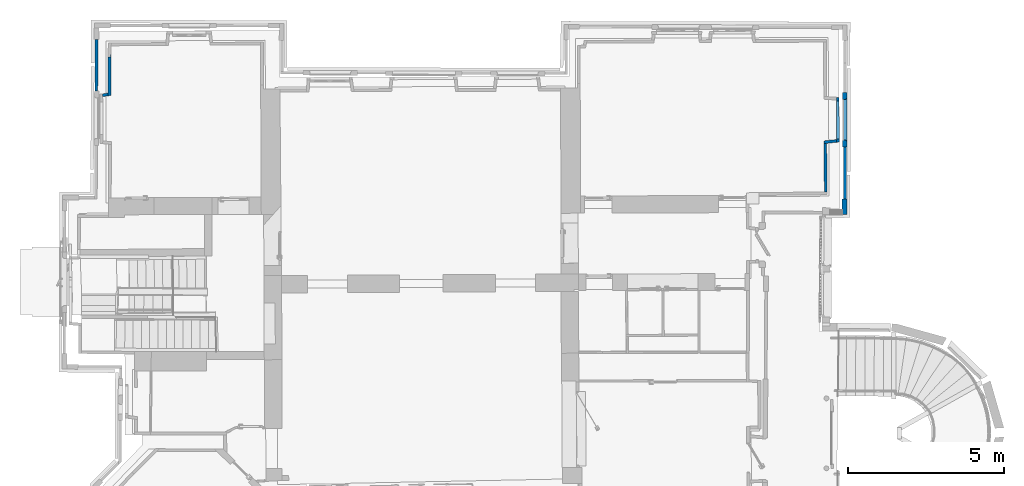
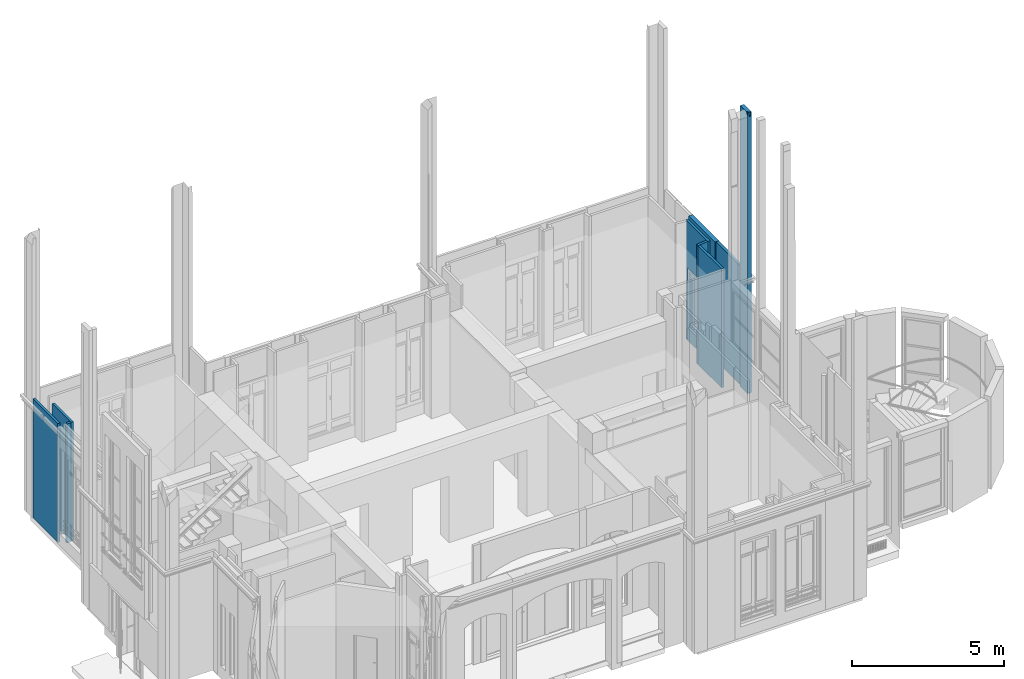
# One storey, part 19 of 97: 9 walls, 3 openings.
"""IFC2X3 building model written with IfcOpenShell, lengths in centimetres."""

from ifc_helpers import new_model, entity, si_unit, converted_unit, direction, frame, origin, origin_with_axes, place, context, subcontext, project, spatial, polyline, outline, extrude, clip, bounded_halfspace, faceted_brep, shape, material, layer, layer_set, layer_usage, type_object, element, save


model = new_model("IFC2X3")

# Units and contexts
model_context = context("Model", 3, precision=0.0001, world=origin(), true_north=direction((0.225632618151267, 0.974212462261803, 0.0)))
body_context = subcontext(model_context, "Body", "Model", "MODEL_VIEW")
footprint_context = subcontext(model_context, "FootPrint", "Model", "MODEL_VIEW")
profile_context = subcontext(model_context, "Profile", "Model", "MODEL_VIEW")
ifc_project = project(units=[si_unit("LENGTHUNIT", "METRE", prefix="CENTI"), si_unit("AREAUNIT", "SQUARE_METRE", prefix="CENTI"), si_unit("VOLUMEUNIT", "CUBIC_METRE", prefix="CENTI"), converted_unit("PLANEANGLEUNIT", "DEGREE", entity("IfcRatioMeasure", 0.0174532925), si_unit("PLANEANGLEUNIT", "RADIAN"), dimensions=[0, 0, 0, 0, 0, 0, 0])], contexts=[model_context])

# Site, building, storey
site_placement = place(None, origin_with_axes())
site = spatial("IfcSite", under=ifc_project, at=site_placement, Name="Default Site", CompositionType="ELEMENT")
building_placement = place(site_placement, origin_with_axes())
building = spatial("IfcBuilding", under=site, at=building_placement, Name="Default Building", CompositionType="ELEMENT")
storey_placement = place(building_placement, origin_with_axes())
storey = spatial("IfcBuildingStorey", under=building, at=storey_placement, Name="Rez-de-chaussée", CompositionType="ELEMENT", Elevation=0.0)

# Walls
ifc_material = material(Name="<aucun>")
ifc_layer_1 = layer(ifc_material, 9.0)
ifc_layer_set_1 = layer_set([ifc_layer_1], Name="default")
ifc_layer_usage_1 = layer_usage(ifc_layer_set_1, "AXIS2", "POSITIVE", -4.5)
wall_type_1 = type_object("IfcWallType", Name="default 90", PredefinedType="NOTDEFINED", material=ifc_layer_set_1)
wall_1_placement = place(storey_placement, frame((1143.79783582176, 201.277321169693, 0.0128503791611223), z_axis=(0.0, 0.0, 1.0), x_axis=(0.00506195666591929, 0.999987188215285, 0.0)))
element("IfcWallStandardCase", 1, at=wall_1_placement, inside=storey, type_object=wall_type_1, material=ifc_layer_usage_1, Name="Enveloppe 368208", context=body_context, shape_type="SweptSolid", body=[
    extrude(outline(polyline([(0.153952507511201, 4.49999999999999), (0.153952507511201, -4.50000000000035), (166.728119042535, -4.50000000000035), (166.712683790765, 4.49999999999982), (0.153952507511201, 4.49999999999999)])), frame((0.0, 0.0, -8.13151629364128e-18), z_axis=(0.0, 0.0, 1.0), x_axis=(1.0, 0.0, 0.0)), (0.0, 0.0, 1.0), 477.795358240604),
])
ifc_layer_usage_2 = layer_usage(ifc_layer_set_1, "AXIS2", "POSITIVE", -4.5)
wall_2_placement = place(storey_placement, frame((-1252.33545068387, 547.113610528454, 0.0128503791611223), z_axis=(0.0, 0.0, 1.0), x_axis=(0.00315065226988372, 0.99999503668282, 0.0)))
element("IfcWallStandardCase", 2, at=wall_2_placement, inside=storey, type_object=wall_type_1, material=ifc_layer_usage_2, Name="Enveloppe 371685", context=body_context, shape_type="Clipping", body=[
    clip(clip(extrude(outline(polyline([(2.47822207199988e-06, 4.49921342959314), (2.27587735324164e-06, -4.50072234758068), (165.208116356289, -4.49968491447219), (165.243770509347, 4.50000000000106), (2.47822207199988e-06, 4.49921342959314)])), frame((0.0, 0.0, -8.13151629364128e-18), z_axis=(0.0, 0.0, 1.0), x_axis=(1.0, 0.0, 0.0)), (0.0, 0.0, 1.0), 477.795358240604), bounded_halfspace(frame((0.229270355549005, -4.49999999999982, 465.782507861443), z_axis=(0.0, 0.0, 1.0), x_axis=(-1.0, -9.69993616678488e-13, 0.0)), True, frame((0.229270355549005, -4.49999999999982, 465.782507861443), z_axis=(0.0, 0.0, 1.0), x_axis=(1.0, 0.0, 0.0)), polyline([(-0.229270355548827, -1.77635683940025e-13), (-0.229270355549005, 1.01476731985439), (0.00229512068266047, 1.01334410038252), (8.88178419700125e-14, 0.0), (-0.229270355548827, -1.77635683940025e-13)]))), bounded_halfspace(frame((0.249654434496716, 4.49999999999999, 465.782507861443), z_axis=(0.0, 0.0, 1.0), x_axis=(-0.00226489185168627, -0.999997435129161, 0.0)), True, frame((0.249654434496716, 4.49999999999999, 465.782507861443), z_axis=(0.0, 0.0, 1.0), x_axis=(1.0, 0.0, 0.0)), polyline([(-0.249654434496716, -7.98523268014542), (-0.249654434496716, -3.5527136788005e-13), (8.88178419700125e-14, 0.0), (-0.0180889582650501, -7.98665589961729), (-0.249654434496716, -7.98523268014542)]))),
])
ifc_layer_usage_3 = layer_usage(ifc_layer_set_1, "AXIS2", "POSITIVE", -4.5)
wall_3_placement = place(storey_placement, frame((1082.6711145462, 224.358256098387, 0.0128503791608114), z_axis=(0.0, 0.0, 1.0), x_axis=(-0.0110576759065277, 0.999938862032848, 0.0)))
element("IfcWallStandardCase", 3, at=wall_3_placement, inside=storey, type_object=wall_type_1, material=ifc_layer_usage_3, Name="Enveloppe 673099", context=body_context, shape_type="SweptSolid", body=[
    extrude(outline(polyline([(154.33601609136, 4.50000000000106), (-0.00255474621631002, 4.50000000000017), (-2.22044604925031e-13, -4.49999999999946), (155.186640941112, -4.49999999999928), (154.33601609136, 4.50000000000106)])), frame((0.0, 0.0, 2.71050543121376e-18), z_axis=(0.0, 0.0, 1.0), x_axis=(1.0, 0.0, 0.0)), (0.0, 0.0, 1.0), 477.795358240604),
])
ifc_layer_usage_4 = layer_usage(ifc_layer_set_1, "AXIS2", "POSITIVE", -4.5)
wall_4_placement = place(storey_placement, frame((1076.74714079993, 383.18997632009, 0.0128503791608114), z_axis=(0.0, 0.0, 1.0), x_axis=(0.994461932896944, 0.105097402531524, 0.0)))
element("IfcWallStandardCase", 4, at=wall_4_placement, inside=storey, type_object=wall_type_1, material=ifc_layer_usage_4, Name="Enveloppe 672947", context=body_context, shape_type="SweptSolid", body=[
    extrude(outline(polyline([(0.0911316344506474, 4.49999999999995), (-0.759493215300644, -4.49999999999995), (40.2711774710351, -4.49999999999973), (41.1729534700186, 4.50000000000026), (0.0911316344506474, 4.49999999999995)])), origin_with_axes(), (0.0, 0.0, 1.0), 477.795358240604),
])
ifc_layer_usage_5 = layer_usage(ifc_layer_set_1, "AXIS2", "POSITIVE", -4.5)
wall_5_placement = place(storey_placement, frame((-1210.14601625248, 533.107733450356, 0.0128503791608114), z_axis=(0.0, 0.0, 1.0), x_axis=(-0.00291147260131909, 0.999995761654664, 0.0)))
element("IfcWallStandardCase", 5, at=wall_5_placement, inside=storey, type_object=wall_type_1, material=ifc_layer_usage_5, Name="Enveloppe 667974", context=body_context, shape_type="Clipping", body=[
    clip(extrude(outline(polyline([(122.711111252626, 4.50000000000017), (-1.38306657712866, 4.49999999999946), (-0.00021398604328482, -4.49999999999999), (133.631462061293, -4.49999999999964), (122.710600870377, -3.92676964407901), (122.711111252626, 4.50000000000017)])), origin_with_axes(), (0.0, 0.0, 1.0), 477.795358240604), bounded_halfspace(frame((122.711111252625, -3.92677113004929, 399.097180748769), z_axis=(0.0, 0.0, -1.0), x_axis=(3.89958031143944e-13, -1.0, 0.0)), True, frame((122.711111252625, -3.92677113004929, 399.097180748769), z_axis=(0.0, 0.0, 1.0), x_axis=(1.0, 0.0, 0.0)), polyline([(1.77635683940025e-13, -0.573228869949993), (10.9203508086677, -0.573228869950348), (0.0, 1.77635683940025e-13), (1.77635683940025e-13, -0.573228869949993)]))),
])
ifc_layer_usage_6 = layer_usage(ifc_layer_set_1, "AXIS2", "POSITIVE", -4.5)
wall_6_placement = place(storey_placement, frame((-1232.33137893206, 533.495712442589, 0.0128503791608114), z_axis=(0.0, 0.0, 1.0), x_axis=(0.98795442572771, 0.15474512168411, 0.0)))
element("IfcWallStandardCase", 6, at=wall_6_placement, inside=storey, type_object=wall_type_1, material=ifc_layer_usage_6, Name="Enveloppe 668041", context=body_context, shape_type="SweptSolid", body=[
    extrude(outline(polyline([(0.0, 4.50000000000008), (0.0, -3.47108656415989), (-0.158285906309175, -4.49999999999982), (17.2002422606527, -4.49999999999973), (18.5830948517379, 4.50000000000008), (0.0, 4.50000000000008)])), origin_with_axes(), (0.0, 0.0, 1.0), 477.795358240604),
])

# Wall, openings
ifc_layer_usage_7 = layer_usage(ifc_layer_set_1, "AXIS2", "POSITIVE", -4.5)
wall_7_placement = place(storey_placement, frame((1121.74117112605, 387.945066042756, 0.0128503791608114), z_axis=(0.0, 0.0, 1.0), x_axis=(-0.00542779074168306, 0.999985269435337, 0.0)))
wall_7 = element("IfcWallStandardCase", 7, at=wall_7_placement, inside=storey, type_object=wall_type_1, material=ifc_layer_usage_7, Name="Enveloppe 672747", context=body_context, shape_type="SweptSolid", body=[
    extrude(outline(polyline([(130.307049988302, 4.50000000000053), (-4.97342047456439, 4.49999999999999), (-4.0716444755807, -4.49999999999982), (138.656456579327, -4.49999999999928), (139.281773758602, 3.82595753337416), (130.307049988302, 4.50000000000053)])), frame((0.0, 0.0, -2.71050543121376e-18), z_axis=(0.0, 0.0, 1.0), x_axis=(1.0, 0.0, 0.0)), (0.0, 0.0, 1.0), 477.795358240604),
])
opening_1_placement = place(wall_7_placement, frame((4.07164447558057, 2.27373675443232e-13, -1.77635683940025e-13), z_axis=(0.0, 0.0, 1.0), x_axis=(1.0, 4.17634676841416e-15, 0.0)))
cartesian_point_1 = entity("IfcCartesianPoint", [0.0, -1.77635683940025e-13, 51.0])
cartesian_point_2 = entity("IfcCartesianPoint", [126.235405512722, 4.49999999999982])
element("IfcOpeningElement", 8, at=opening_1_placement, cuts=wall_7, Name="Baie 23835", ObjectType="Recess", shapes=[
    shape(body_context, "Body", "Brep", [faceted_brep([(-1.04955064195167e-05, 24.4999648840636, 50.9999994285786), (126.235426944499, 24.4999648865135, 50.9999994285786), (126.235426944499, 24.4999648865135, -4.62430102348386e-10), (-1.04955064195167e-05, 24.4999648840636, -4.62430102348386e-10), (-1.04950988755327e-05, 3.50003317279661, -4.62430102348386e-10), (-1.04950988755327e-05, 3.50003317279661, 50.9999994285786), (126.235426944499, 24.5000003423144, -4.62430102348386e-10), (126.235407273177, 3.49997339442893, -4.62430102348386e-10), (-5.80768735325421e-06, 3.50003317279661, -4.62430102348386e-10), (126.235426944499, 24.5000003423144, 50.9999994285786), (126.235426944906, 3.49997339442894, 50.9999994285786), (126.235426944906, 3.49997339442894, -4.62430102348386e-10), (-5.80768735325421e-06, 3.50003317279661, 50.9999994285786), (126.235407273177, 3.49997339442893, 50.9999994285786), (126.235407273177, 3.50003317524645, -4.62430102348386e-10), (126.235407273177, 3.50003317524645, 50.9999994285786)], [[[0, 1, 2, 3]], [[3, 4, 5, 0]], [[6, 7, 8, 3]], [[9, 10, 11, 6]], [[0, 12, 13, 9]], [[12, 8, 14, 15]]])]),
    shape(profile_context, "Profile", "GeometricCurveSet", [entity("IfcGeometricCurveSet", [entity("IfcPolyline", [cartesian_point_1, entity("IfcCartesianPoint", [0.0, -1.77635683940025e-13, -2.71050543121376e-18]), entity("IfcCartesianPoint", [126.235405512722, -1.77635683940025e-13, -2.71050543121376e-18]), entity("IfcCartesianPoint", [126.235405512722, -1.77635683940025e-13, 51.0]), cartesian_point_1])])]),
    shape(footprint_context, "FootPrint", "GeometricCurveSet", [entity("IfcGeometricCurveSet", [entity("IfcPolyline", [cartesian_point_2, entity("IfcCartesianPoint", [0.0, 4.49999999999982]), entity("IfcCartesianPoint", [0.0, -4.50000000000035]), entity("IfcCartesianPoint", [126.235405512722, -4.50000000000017]), cartesian_point_2])])]),
])
opening_2_placement = place(wall_7_placement, frame((6.18815742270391, -2.27373675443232e-13, 51.0871496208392), z_axis=(0.0, 0.0, 1.0), x_axis=(1.0, 4.17634676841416e-15, 0.0)))
cartesian_point_3 = entity("IfcCartesianPoint", [0.0, 1.77635683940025e-13, 240.0])
cartesian_point_4 = entity("IfcCartesianPoint", [121.522297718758, 4.50000000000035])
element("IfcOpeningElement", 9, at=opening_2_placement, cuts=wall_7, Name="4294966459_11", ObjectType="Opening", shapes=[
    shape(body_context, "Body", "SweptSolid", [extrude(outline(polyline([(4.44089209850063e-14, 240.0), (4.44089209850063e-14, 0.0), (121.522297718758, 0.0), (121.522297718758, 240.0), (4.44089209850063e-14, 240.0)])), frame((0.0, 14.5, 0.0), z_axis=(0.0, -1.0, 0.0), x_axis=(1.0, 0.0, 0.0)), (0.0, 0.0, 1.0), 29.0)]),
    shape(profile_context, "Profile", "GeometricCurveSet", [entity("IfcGeometricCurveSet", [entity("IfcPolyline", [cartesian_point_3, entity("IfcCartesianPoint", [0.0, 1.77635683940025e-13, 0.0]), entity("IfcCartesianPoint", [121.522297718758, 1.77635683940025e-13, 0.0]), entity("IfcCartesianPoint", [121.522297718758, 1.77635683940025e-13, 240.0]), cartesian_point_3])])]),
    shape(footprint_context, "FootPrint", "GeometricCurveSet", [entity("IfcGeometricCurveSet", [entity("IfcPolyline", [cartesian_point_4, entity("IfcCartesianPoint", [4.44089209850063e-14, 4.50000000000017]), entity("IfcCartesianPoint", [0.0, -4.49999999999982]), entity("IfcCartesianPoint", [121.522297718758, -4.49999999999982]), cartesian_point_4])])]),
])

# Wall
ifc_layer_2 = layer(ifc_material, 15.0)
ifc_layer_set_2 = layer_set([ifc_layer_2], Name="default")
ifc_layer_usage_8 = layer_usage(ifc_layer_set_2, "AXIS2", "POSITIVE", -7.5)
wall_type_2 = type_object("IfcWallType", Name="default 150", PredefinedType="NOTDEFINED", material=ifc_layer_set_2)
wall_8_placement = place(storey_placement, frame((1142.34356152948, 151.628122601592, 0.0128503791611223), z_axis=(0.0, 0.0, 1.0), x_axis=(0.00334694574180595, 0.999994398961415, 0.0)))
solid = clip(clip(clip(clip(clip(clip(clip(clip(extrude(outline(polyline([(-0.323613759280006, 7.50000000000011), (-0.00295725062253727, -7.50000000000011), (49.7154579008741, -7.49999999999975), (49.7154579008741, -5.78820535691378), (49.8000210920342, -5.78792232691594), (49.8154563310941, 4.10487673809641), (49.7154579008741, 4.10543705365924), (49.7154579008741, 7.50000000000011), (-0.323613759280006, 7.50000000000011)])), origin_with_axes(), (0.0, 0.0, 1.0), 1127.62220273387), bounded_halfspace(frame((49.8154563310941, 4.10487673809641, 853.897523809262), z_axis=(0.0, 0.0, 1.0), x_axis=(1.59275636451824e-06, -0.999999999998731, 0.0)), True, frame((49.8154563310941, 4.10487673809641, 853.897523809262), z_axis=(0.0, 0.0, 1.0), x_axis=(1.0, 0.0, 0.0)), polyline([(-0.0999984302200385, -0.893068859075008), (-0.0999984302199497, 0.000560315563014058), (0.0, 0.0), (1.42271425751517e-06, -0.893240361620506), (-0.0999984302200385, -0.893068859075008)]))), bounded_halfspace(frame((49.7154579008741, -4.89470422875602, 1107.6399055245), z_axis=(-0.00105270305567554, 0.848860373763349, -0.528616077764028), x_axis=(0.000906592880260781, 0.528616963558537, 0.848859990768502)), True, frame((49.7154579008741, -4.89470422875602, 1107.6399055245), z_axis=(0.0, 0.0, 1.0), x_axis=(1.0, 0.0, 0.0)), polyline([(0.0, -0.893501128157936), (0.0845646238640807, -0.893646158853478), (0.0860964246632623, -0.000482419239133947), (0.0, 1.77635683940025e-13), (0.0, -0.893501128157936)]))), bounded_halfspace(frame((2.24677387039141, 7.23421766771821, 1114.9758371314), z_axis=(0.825718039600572, 0.0373590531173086, -0.562844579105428), x_axis=(0.0213591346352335, -0.999159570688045, -0.0349848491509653)), True, frame((2.24677387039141, 7.23421766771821, 1114.9758371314), z_axis=(0.0, 0.0, 1.0), x_axis=(1.0, 0.0, 0.0)), polyline([(-2.56353448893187, -0.0548009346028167), (-2.45886908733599, -4.95094675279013), (0.000972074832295, -0.116540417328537), (2.22044604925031e-14, 0.0), (-2.56353448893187, -0.0548009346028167)]))), bounded_halfspace(frame((14.6798132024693, 7.50000000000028, 1127.61329611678), z_axis=(-0.00105270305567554, 0.848860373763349, -0.528616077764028), x_axis=(-0.999998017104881, 2.80071105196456e-15, 0.00199142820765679)), True, frame((14.6798132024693, 7.50000000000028, 1127.61329611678), z_axis=(0.0, 0.0, 1.0), x_axis=(1.0, 0.0, 0.0)), polyline([(-12.3697776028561, -7.85012468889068), (-12.3250955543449, -13.2069803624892), (35.0356446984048, -13.2882053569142), (35.0356446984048, -1.77635683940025e-13), (0.0, 0.0), (-4.56333062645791, -0.0975507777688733), (-12.3697776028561, -7.85012468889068)]))), bounded_halfspace(frame((2.44232503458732, 7.50000000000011, 1115.28036080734), z_axis=(0.825718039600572, 0.0373590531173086, -0.562844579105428), x_axis=(0.367247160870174, 0.72176289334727, 0.586675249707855)), True, frame((2.44232503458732, 7.50000000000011, 1115.28036080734), z_axis=(0.0, 0.0, 1.0), x_axis=(1.0, 0.0, 0.0)), polyline([(-0.195551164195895, -0.265782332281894), (-0.134572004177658, -0.264478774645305), (0.0, 0.0), (-0.197768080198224, 0.0), (-0.195551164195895, -0.265782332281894)]))), bounded_halfspace(frame((49.7154579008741, 3.21180787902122, 1120.65747571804), z_axis=(-0.00105270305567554, 0.848860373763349, -0.528616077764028), x_axis=(0.00328842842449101, 0.528616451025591, 0.848854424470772)), True, frame((49.7154579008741, 3.21180787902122, 1120.65747571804), z_axis=(0.0, 0.0, 1.0), x_axis=(1.0, 0.0, 0.0)), polyline([(-4.44089209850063e-14, -8.10651210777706), (0.0495700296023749, -8.10678986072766), (0.0999998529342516, -0.000171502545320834), (-4.44089209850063e-14, 1.77635683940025e-13), (-4.44089209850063e-14, -8.10651210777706)]))), bounded_halfspace(frame((49.7650279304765, -4.89498198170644, 853.897523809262), z_axis=(0.0, 0.0, -1.0), x_axis=(0.999984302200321, -0.00560315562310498, 0.0)), True, frame((49.7650279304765, -4.89498198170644, 853.897523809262), z_axis=(0.0, 0.0, 1.0), x_axis=(1.0, 0.0, 0.0)), polyline([(0.0, 0.0), (0.036526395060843, -0.000204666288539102), (0.0504298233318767, 8.10661835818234), (0.0, 0.0)]))), bounded_halfspace(frame((2.24455695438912, 7.50000000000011, 1114.9902262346), z_axis=(0.825718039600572, 0.0373590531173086, -0.562844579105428), x_axis=(0.562825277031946, 0.0120315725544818, 0.826488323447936)), True, frame((2.24455695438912, 7.50000000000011, 1114.9902262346), z_axis=(0.0, 0.0, 1.0), x_axis=(1.0, 0.0, 0.0)), polyline([(-2.56131757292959, -0.320583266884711), (0.00221691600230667, -0.265782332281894), (-2.22044604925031e-14, 0.0), (-2.56817071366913, 0.0), (-2.56131757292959, -0.320583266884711)])))
element("IfcWallStandardCase", 10, at=wall_8_placement, inside=storey, type_object=wall_type_2, material=ifc_layer_usage_8, Name="Enveloppe 367898", context=body_context, shape_type="Clipping", body=[
    clip(clip(clip(clip(clip(clip(clip(clip(solid, bounded_halfspace(frame((2.31003559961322, -0.350124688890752, 1115.03207062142), z_axis=(-0.00105270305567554, 0.848860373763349, -0.528616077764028), x_axis=(-3.94649590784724e-16, 0.528616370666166, 0.848860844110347)), True, frame((2.31003559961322, -0.350124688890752, 1115.03207062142), z_axis=(0.0, 0.0, 1.0), x_axis=(1.0, 0.0, 0.0)), polyline([(-2.41457564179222, -2.39793099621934), (-2.31299285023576, -7.14987531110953), (47.4054223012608, -7.149875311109), (47.4054223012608, -5.4380806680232), (0.0446820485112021, -5.3568556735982), (0.0, 0.0), (-2.41457564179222, -2.39793099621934)]))), bounded_halfspace(frame((2.31003559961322, -0.350124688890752, 1115.03198907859), z_axis=(0.846181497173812, 0.00259742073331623, -0.532888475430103), x_axis=(-0.0083405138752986, 0.999930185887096, -0.00837013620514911)), True, frame((2.31003559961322, -0.350124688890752, 1115.03198907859), z_axis=(0.0, 0.0, 1.0), x_axis=(1.0, 0.0, 0.0)), polyline([(-2.52213081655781, 2.63339560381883), (-2.41457564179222, -2.39793099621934), (0.0, 0.0), (-0.0622896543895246, 7.46780193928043), (-2.52213081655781, 2.63339560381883)]))), bounded_halfspace(frame((2.30775303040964, 7.23552122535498, 1115.06538279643), z_axis=(0.825718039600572, 0.0373590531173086, -0.562844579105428), x_axis=(0.367247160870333, 0.72176289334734, 0.58667524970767)), True, frame((2.30775303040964, 7.23552122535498, 1115.06538279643), z_axis=(0.0, 0.0, 1.0), x_axis=(1.0, 0.0, 0.0)), polyline([(-0.060006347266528, -0.117932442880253), (-2.22044604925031e-14, -1.77635683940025e-13), (-0.0609791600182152, -0.00130355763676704), (-0.060006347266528, -0.117932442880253)]))), bounded_halfspace(frame((10.1164825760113, 7.40244922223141, 1127.46574959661), z_axis=(0.846181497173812, 0.00259742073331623, -0.532888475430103), x_axis=(-0.532830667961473, -0.0113903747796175, -0.846145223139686)), True, frame((10.1164825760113, 7.40244922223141, 1127.46574959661), z_axis=(0.0, 0.0, 1.0), x_axis=(1.0, 0.0, 0.0)), polyline([(-7.86873589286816, -0.284860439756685), (-7.80644697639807, -7.75257391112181), (0.0, 0.0), (-7.80872954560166, -0.166927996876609), (-7.86873589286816, -0.284860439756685)]))), bounded_halfspace(frame((10.2147105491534, 7.50000000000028, 1115.29518432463), z_axis=(0.0, 0.0, -1.0), x_axis=(-0.70954840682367, -0.704656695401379, 0.0)), True, frame((10.2147105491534, 7.50000000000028, 1115.29518432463), z_axis=(0.0, 0.0, 1.0), x_axis=(1.0, 0.0, 0.0)), polyline([(-0.0982279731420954, -0.0975507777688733), (4.46510265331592, 0.0), (-2.22044604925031e-14, 0.0), (-0.0982279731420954, -0.0975507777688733)]))), bounded_halfspace(frame((10.2147105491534, 7.50000000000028, 1127.62220273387), z_axis=(0.846181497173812, 0.00259742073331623, -0.532888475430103), x_axis=(0.0387982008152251, -0.997634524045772, 0.0567455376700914)), True, frame((10.2147105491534, 7.50000000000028, 1127.62220273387), z_axis=(0.0, 0.0, 1.0), x_axis=(1.0, 0.0, 0.0)), polyline([(-7.77238551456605, -1.77635683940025e-13), (-7.76222021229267, -0.261384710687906), (-0.0982279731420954, -0.0975507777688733), (-2.22044604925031e-14, 0.0), (-7.77238551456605, -1.77635683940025e-13)]))), bounded_halfspace(frame((2.4524903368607, 7.23861528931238, 1115.29518432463), z_axis=(0.846181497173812, 0.00259742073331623, -0.532888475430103), x_axis=(-0.0387982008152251, 0.997634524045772, -0.0567455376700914)), True, frame((2.4524903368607, 7.23861528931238, 1115.29518432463), z_axis=(0.0, 0.0, 1.0), x_axis=(1.0, 0.0, 0.0)), polyline([(-0.144737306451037, -0.00309406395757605), (0.0, 0.0), (-0.0101653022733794, 0.261384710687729), (-0.144737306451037, -0.00309406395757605)]))), bounded_halfspace(frame((49.7154579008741, 4.10543705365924, 1122.09248011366), z_axis=(-0.00105270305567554, 0.848860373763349, -0.528616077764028), x_axis=(-2.26116868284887e-14, -0.528616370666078, -0.848860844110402)), True, frame((49.7154579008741, 4.10543705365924, 1122.09248011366), z_axis=(0.0, 0.0, 1.0), x_axis=(1.0, 0.0, 0.0)), polyline([(-8.88178419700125e-14, -0.893629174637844), (0.0999998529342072, -0.893800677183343), (0.0999984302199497, -0.000560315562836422), (0.0, 1.77635683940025e-13), (-8.88178419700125e-14, -0.893629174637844)]))),
])

# Wall, opening
ifc_layer_usage_9 = layer_usage(ifc_layer_set_2, "AXIS2", "POSITIVE", -7.5)
wall_9_placement = place(storey_placement, frame((1143.06775338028, 368.000854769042, 0.0128503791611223), z_axis=(0.0, 0.0, 1.0), x_axis=(0.00334694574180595, 0.999994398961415, 0.0)))
wall_9 = element("IfcWallStandardCase", 11, at=wall_9_placement, inside=storey, type_object=wall_type_2, material=ifc_layer_usage_9, Name="Enveloppe 368252", context=body_context, shape_type="SweptSolid", body=[
    extrude(outline(polyline([(-8.88178419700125e-14, 7.50000000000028), (-8.88178419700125e-14, -7.49999999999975), (173.995087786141, -7.49999999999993), (173.994203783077, -5.47428208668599), (174.095083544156, -5.47394444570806), (174.012186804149, 3.52567377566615), (173.995087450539, 3.52561654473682), (173.995087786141, 7.50000000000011), (-8.88178419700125e-14, 7.50000000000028)])), origin_with_axes(), (0.0, 0.0, 1.0), 477.795358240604),
])
opening_3_placement = place(wall_9_placement, frame((19.2232556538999, 0.0, 30.9871496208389), z_axis=(0.0, 0.0, 1.0), x_axis=(-1.0, -2.43294967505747e-16, 0.0)))
cartesian_point_5 = entity("IfcCartesianPoint", [0.0, -1.77635683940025e-13, 362.101338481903])
cartesian_point_6 = entity("IfcCartesianPoint", [-135.761126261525, -7.50000000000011])
element("IfcOpeningElement", 12, at=opening_3_placement, cuts=wall_9, Name="Baie 379477", ObjectType="Opening", shapes=[
    shape(body_context, "Body", "Brep", [faceted_brep([(-3.00000631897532, -27.500025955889, 362.101334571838), (-132.761117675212, -27.5000259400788, 362.101334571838), (-132.761117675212, -27.5000259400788, 2.38418568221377e-07), (-3.00000631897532, -27.500025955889, 2.38418568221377e-07), (8.36361206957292e-06, 27.5000423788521, 2.38418568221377e-07), (-135.761130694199, 27.5000423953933, 2.38418568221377e-07), (-135.761130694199, 27.5000423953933, 362.101334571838), (8.36361206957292e-06, 27.5000423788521, 362.101334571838), (-3.00000631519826, 3.49999891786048, 2.38418568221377e-07), (-3.00000631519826, 3.49999891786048, 362.101334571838), (-3.00000195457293, 3.49999891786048, 362.101334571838), (-3.00000195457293, 3.49999891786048, 2.38418568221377e-07), (-1.19455099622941e-05, 3.49999891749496, 2.38418568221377e-07), (-1.19455099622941e-05, 3.49999891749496, 362.101334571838), (-1.19455099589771e-05, 3.50002614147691, 362.101334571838), (-1.19455099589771e-05, 3.50002614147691, 2.38418568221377e-07), (-1.1942585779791e-05, 27.5000423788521, 2.38418568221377e-07), (-1.1942585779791e-05, 27.5000423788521, 362.101334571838), (-132.761117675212, -27.5000260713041, 2.38418568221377e-07), (-132.76111331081, 3.49999880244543, 2.38418568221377e-07), (-135.761103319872, 3.499971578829, 2.38418568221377e-07), (-135.761130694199, 27.4999876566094, 2.38418568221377e-07), (-132.761117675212, -27.5000260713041, 362.101334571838), (-132.761117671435, 3.49999880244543, 362.101334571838), (-132.761117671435, 3.49999880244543, 2.38418568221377e-07), (-132.76111331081, 3.49999880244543, 362.101334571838), (-135.761103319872, 3.49999880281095, 362.101334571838), (-135.761103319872, 3.49999880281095, 2.38418568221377e-07), (-135.761103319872, 3.499971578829, 362.101334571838), (-135.761103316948, 27.4999876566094, 362.101334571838), (-135.761103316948, 27.4999876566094, 2.38418568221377e-07), (-135.761130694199, 27.4999876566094, 362.101334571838)], [[[0, 1, 2, 3]], [[4, 5, 6, 7]], [[0, 3, 8, 9]], [[10, 11, 12, 13]], [[14, 15, 16, 17]], [[3, 18, 19, 20, 21, 4, 15, 11]], [[18, 22, 23, 24]], [[19, 25, 26, 27]], [[20, 28, 29, 30]], [[10, 14, 7, 31, 28, 25, 22, 0]]])]),
    shape(profile_context, "Profile", "GeometricCurveSet", [entity("IfcGeometricCurveSet", [entity("IfcPolyline", [cartesian_point_5, entity("IfcCartesianPoint", [0.0, -1.77635683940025e-13, 0.0]), entity("IfcCartesianPoint", [-135.761126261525, 0.0, 0.0]), entity("IfcCartesianPoint", [-135.761126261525, 0.0, 362.101338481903]), cartesian_point_5])])]),
    shape(footprint_context, "FootPrint", "GeometricCurveSet", [entity("IfcGeometricCurveSet", [entity("IfcPolyline", [cartesian_point_6, entity("IfcCartesianPoint", [4.44089209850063e-14, -7.50000000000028]), entity("IfcCartesianPoint", [0.0, 7.49999999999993]), entity("IfcCartesianPoint", [-135.761126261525, 7.49999999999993]), cartesian_point_6])])]),
])

save(model, "model.ifc")
